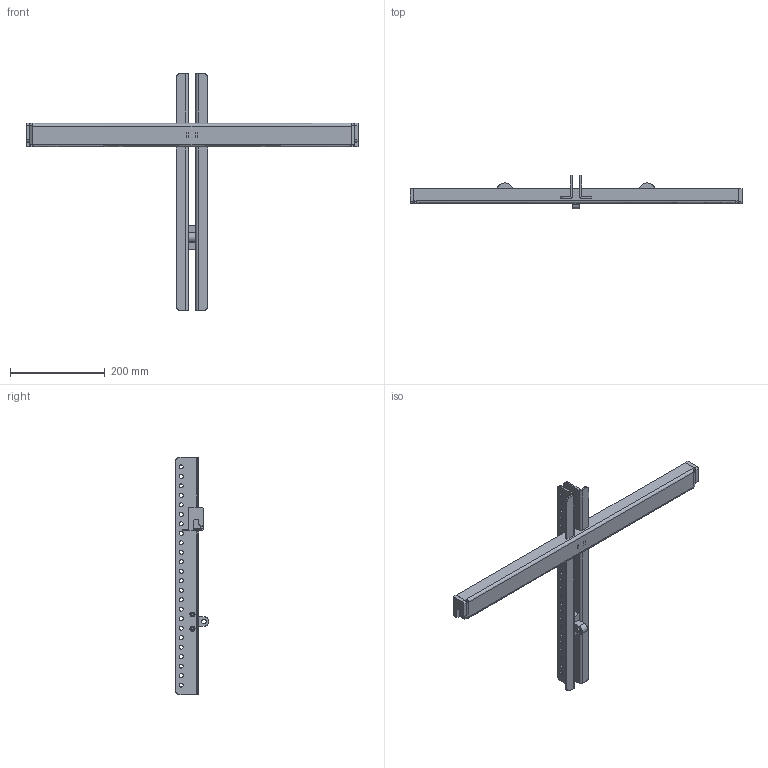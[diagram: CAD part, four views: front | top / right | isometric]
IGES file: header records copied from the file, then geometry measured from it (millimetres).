
Start section: SolidWorks IGES file using analytic representation for surfaces
Global section: file name: D:\Entwicklungen\Projekte aktuell\C-Serie\Solid\WEB\Compact\C-Serie Cradle.IGS; native system: SolidWorks 2009; preprocessor: SolidWorks 2009; author: Nico; date: 240918.130320; units: millimetre
Bounding box: 700 x 70.76 x 500 mm (x, y, z)
Surface area: 306513.9 mm2 (no closed solid volume)
Topology: 0 solids, 0 shells, 288 faces, 5874 edges, 5872 vertices
Faces by surface type: revolution 166, bspline 122
